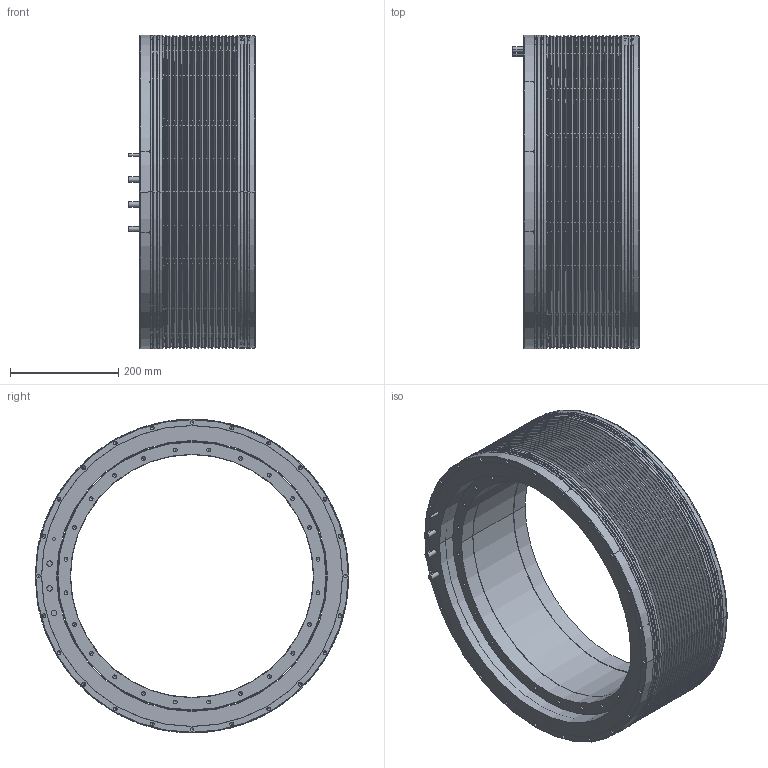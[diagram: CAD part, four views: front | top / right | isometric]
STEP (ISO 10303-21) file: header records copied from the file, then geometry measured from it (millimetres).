
FILE_DESCRIPTION((''),'2;1');
FILE_NAME('TK570-150','2017-10-26T',('stefanos'),(''),'CREO PARAMETRIC BY PTC INC, 2015480','CREO PARAMETRIC BY PTC INC, 2015480','');
FILE_SCHEMA(('CONFIG_CONTROL_DESIGN'));
Length unit declared in the file: millimetre
Products named in the file (1): TK570-150
Bounding box: 234 x 580 x 580 mm (x, y, z)
Volume: 19475018.4 mm3; surface area: 3056955.1 mm2
Topology: 9 solids, 9 shells, 581 faces, 1306 edges, 690 vertices
Faces by surface type: cylinder 260, cone 252, plane 37, torus 16, revolution 16
Entity records: 16516 total; most frequent: CARTESIAN_POINT 3953, DIRECTION 2894, ORIENTED_EDGE 2324, AXIS2_PLACEMENT_3D 1183, EDGE_CURVE 1162, VERTEX_POINT 690, EDGE_LOOP 690, CIRCLE 618
